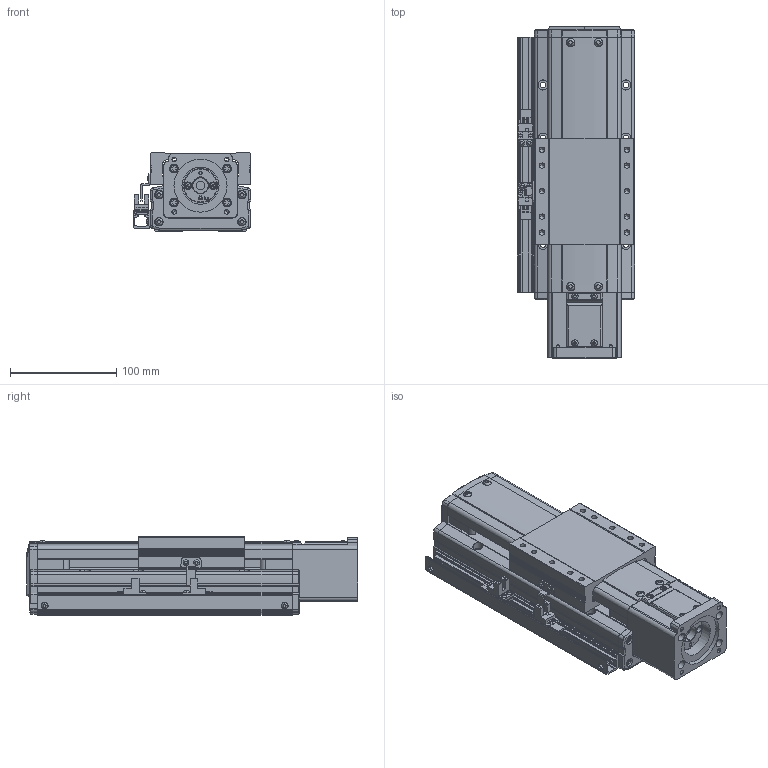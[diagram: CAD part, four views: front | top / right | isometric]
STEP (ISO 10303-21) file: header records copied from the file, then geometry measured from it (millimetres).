
FILE_DESCRIPTION(('STEP AP214'),'1');
FILE_NAME('Z:/Web/3D/PSA95/STP/PSA95-050 (3D)/PSA95ㅁㅁ-050S+2SL.stp','2014-07-02T23:30:08',(' '),(' '),'Spatial InterOp 3D',' ',' ');
FILE_SCHEMA(('automotive_design'));
Length unit declared in the file: millimetre
Products named in the file (49): BASE; RRCV; 스크루 : Round - M4.0 x 10.0; 너트 : Square - M10.0 x 220.7419; RR1500; FRCV-090; 스크루 : Round - M4.0 x 6.0; SLBL-PA90; SSFX-SAN65; CPLCV-SAN65; 스크루 : Round - M3.0 x 6.0; MTHZ-PA70/90-S60A-3; 스크루 : Socket - M4.0 x 20.0; NONE; EE-SX674; SBK-SX674-352; M3.0 x 6.0; SRL-16x17-380L; SGD-PA95; 스크루 : Round - M3.0 x 8.0
Bounding box: 111 x 312.5 x 74 mm (x, y, z)
Volume: 1664225.7 mm3; surface area: 281683.2 mm2
Topology: 49 solids, 83 shells, 3273 faces, 8394 edges, 5351 vertices
Faces by surface type: plane 1712, cylinder 960, cone 349, torus 158, sphere 62, bspline 32
Entity records: 129406 total; most frequent: CARTESIAN_POINT 21086, DIRECTION 17600, ORIENTED_EDGE 16608, EDGE_CURVE 8304, AXIS2_PLACEMENT_3D 6219, VERTEX_POINT 5351, LINE 5162, VECTOR 5162
